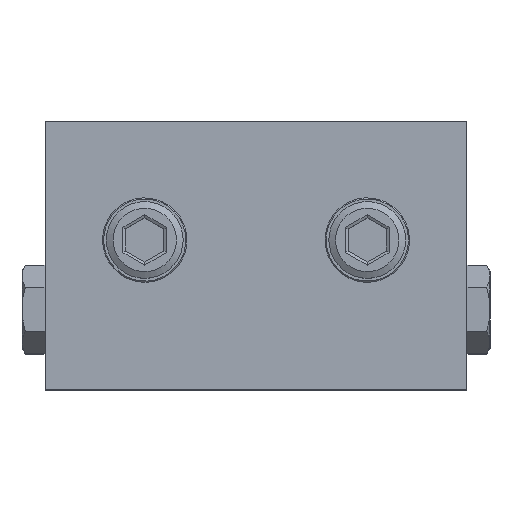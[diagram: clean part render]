
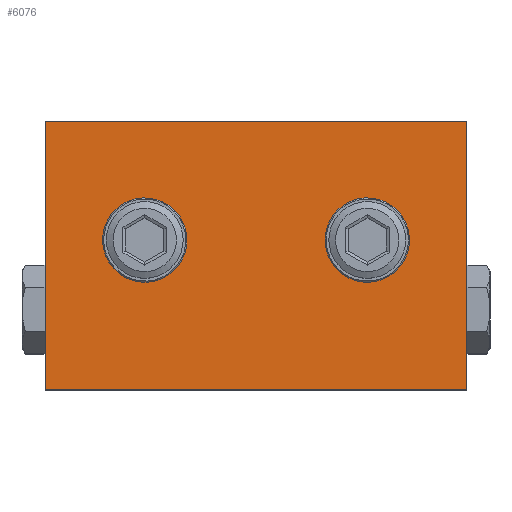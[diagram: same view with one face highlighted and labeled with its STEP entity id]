
A CAD part, top view. The second image highlights one B-rep face of the part: STEP entity #6076.
In plain terms, the highlighted planar face has unit normal (0, 0, 1) as drawn and (0, 0, -1) by its records, which use the part's own axes.
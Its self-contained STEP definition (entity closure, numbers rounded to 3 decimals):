
#512 = DIRECTION ( 'NONE',  ( 0., 0., -1. ) ) ;
#2506 = CARTESIAN_POINT ( 'NONE',  ( -14.5, -15.5, -4.85 ) ) ;
#3057 = VERTEX_POINT ( 'NONE', #26854 ) ;
#3227 = ORIENTED_EDGE ( 'NONE', *, *, #22291, .F. ) ;
#5172 = VECTOR ( 'NONE', #29051, 1000. ) ;
#6006 = DIRECTION ( 'NONE',  ( 1., 0., 0. ) ) ;
#6076 = ADVANCED_FACE ( 'NONE', ( #6610, #29194, #24493 ), #17465, .F. ) ;
#6429 = EDGE_LOOP ( 'NONE', ( #11967 ) ) ;
#6610 = FACE_OUTER_BOUND ( 'NONE', #9329, .T. ) ;
#7491 = CARTESIAN_POINT ( 'NONE',  ( 11.4, -15.5, -4.85 ) ) ;
#7625 = CIRCLE ( 'NONE', #26498, 3.1 ) ;
#7932 = DIRECTION ( 'NONE',  ( 1., 0., 0. ) ) ;
#8188 = VERTEX_POINT ( 'NONE', #29331 ) ;
#8797 = VERTEX_POINT ( 'NONE', #8989 ) ;
#8989 = CARTESIAN_POINT ( 'NONE',  ( 27.5, 0., -4.85 ) ) ;
#9261 = EDGE_CURVE ( 'NONE', #8188, #18597, #19803, .T. ) ;
#9329 = EDGE_LOOP ( 'NONE', ( #24684, #18169, #3227, #25837 ) ) ;
#9512 = CARTESIAN_POINT ( 'NONE',  ( 0., 0., -4.85 ) ) ;
#9555 = ORIENTED_EDGE ( 'NONE', *, *, #26471, .F. ) ;
#9810 = DIRECTION ( 'NONE',  ( -1., 0., 0. ) ) ;
#9957 = AXIS2_PLACEMENT_3D ( 'NONE', #12617, #14872, #7932 ) ;
#10509 = EDGE_CURVE ( 'NONE', #18597, #3057, #22666, .T. ) ;
#11813 = DIRECTION ( 'NONE',  ( 0., 1., 0. ) ) ;
#11857 = EDGE_LOOP ( 'NONE', ( #9555 ) ) ;
#11967 = ORIENTED_EDGE ( 'NONE', *, *, #21867, .F. ) ;
#12617 = CARTESIAN_POINT ( 'NONE',  ( 0., 0., -4.85 ) ) ;
#14433 = VERTEX_POINT ( 'NONE', #19465 ) ;
#14872 = DIRECTION ( 'NONE',  ( 0., 0., 1. ) ) ;
#16491 = VECTOR ( 'NONE', #9810, 1000. ) ;
#17465 = PLANE ( 'NONE',  #9957 ) ;
#17904 = LINE ( 'NONE', #27150, #27939 ) ;
#17918 = CIRCLE ( 'NONE', #22307, 3.1 ) ;
#18066 = DIRECTION ( 'NONE',  ( -1., 0., 0. ) ) ;
#18108 = CARTESIAN_POINT ( 'NONE',  ( 0., -35., -4.85 ) ) ;
#18169 = ORIENTED_EDGE ( 'NONE', *, *, #20053, .F. ) ;
#18597 = VERTEX_POINT ( 'NONE', #28456 ) ;
#19465 = CARTESIAN_POINT ( 'NONE',  ( -11.4, -15.5, -4.85 ) ) ;
#19803 = LINE ( 'NONE', #28744, #5172 ) ;
#20053 = EDGE_CURVE ( 'NONE', #8797, #8188, #27564, .T. ) ;
#20198 = DIRECTION ( 'NONE',  ( 0., 0., -1. ) ) ;
#21247 = DIRECTION ( 'NONE',  ( 1., 0., 0. ) ) ;
#21573 = VERTEX_POINT ( 'NONE', #7491 ) ;
#21867 = EDGE_CURVE ( 'NONE', #14433, #14433, #7625, .T. ) ;
#22291 = EDGE_CURVE ( 'NONE', #3057, #8797, #17904, .T. ) ;
#22307 = AXIS2_PLACEMENT_3D ( 'NONE', #27600, #20198, #18066 ) ;
#22666 = LINE ( 'NONE', #18108, #23638 ) ;
#23638 = VECTOR ( 'NONE', #6006, 1000. ) ;
#24493 = FACE_BOUND ( 'NONE', #6429, .T. ) ;
#24684 = ORIENTED_EDGE ( 'NONE', *, *, #9261, .F. ) ;
#25837 = ORIENTED_EDGE ( 'NONE', *, *, #10509, .F. ) ;
#26471 = EDGE_CURVE ( 'NONE', #21573, #21573, #17918, .T. ) ;
#26498 = AXIS2_PLACEMENT_3D ( 'NONE', #2506, #512, #21247 ) ;
#26854 = CARTESIAN_POINT ( 'NONE',  ( 27.5, -35., -4.85 ) ) ;
#27150 = CARTESIAN_POINT ( 'NONE',  ( 27.5, 0., -4.85 ) ) ;
#27564 = LINE ( 'NONE', #9512, #16491 ) ;
#27600 = CARTESIAN_POINT ( 'NONE',  ( 14.5, -15.5, -4.85 ) ) ;
#27939 = VECTOR ( 'NONE', #11813, 1000. ) ;
#28456 = CARTESIAN_POINT ( 'NONE',  ( -27.5, -35., -4.85 ) ) ;
#28744 = CARTESIAN_POINT ( 'NONE',  ( -27.5, 0., -4.85 ) ) ;
#29051 = DIRECTION ( 'NONE',  ( 0., -1., 0. ) ) ;
#29194 = FACE_BOUND ( 'NONE', #11857, .T. ) ;
#29331 = CARTESIAN_POINT ( 'NONE',  ( -27.5, 0., -4.85 ) ) ;
